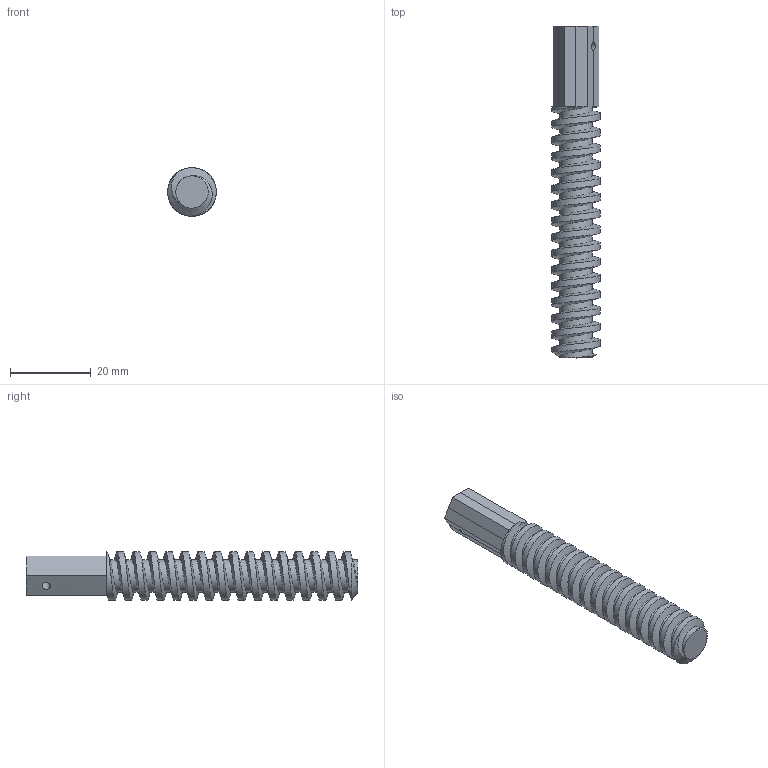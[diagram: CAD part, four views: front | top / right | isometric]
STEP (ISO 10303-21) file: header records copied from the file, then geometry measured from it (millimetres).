
FILE_DESCRIPTION(/* description */ ('STEP AP242 Edition 2','CAx-IF Rec.Pracs.---Representation and Presentation of Product Manufacturing Information (PMI)---4.0---2014-10-13','CAx-IF Rec.Pracs.---3D Tessellated Geometry---0.4---2014-09-14','2;1','CAx-IF Rec.Pracs.---User Defined Attributes---1.5---2016-08-15'),/* implementation_level */ '2;1');
FILE_NAME(/* name */ 'Assembly 1 - Screw',/* time_stamp */ '2026-08-25T12:51:59Z',/* author */ (''),/* organization */ (''),/* preprocessor_version */ 'ST-DEVELOPER v20',/* originating_system */ 'ONSHAPE BY PTC INC, 1.219',/* authorisation */ ' ');
FILE_SCHEMA (('AP242_MANAGED_MODEL_BASED_3D_ENGINEERING_MIM_LF { 1 0 10303 442 3 1 4 }'));
Length unit declared in the file: metre
Products named in the file (1): Screw
Bounding box: 12 x 82 x 12 mm (x, y, z)
Volume: 6872.8 mm3; surface area: 4547.3 mm2
Topology: 1 solids, 1 shells, 22 faces, 60 edges, 38 vertices
Faces by surface type: plane 16, cylinder 3, bspline 2, cone 1
Full cylindrical faces by diameter (mm): 2 x1
Entity records: 2379 total; most frequent: CARTESIAN_POINT 1825, ORIENTED_EDGE 118, DIRECTION 100, EDGE_CURVE 59, LINE 40, VECTOR 40, VERTEX_POINT 38, AXIS2_PLACEMENT_3D 30
